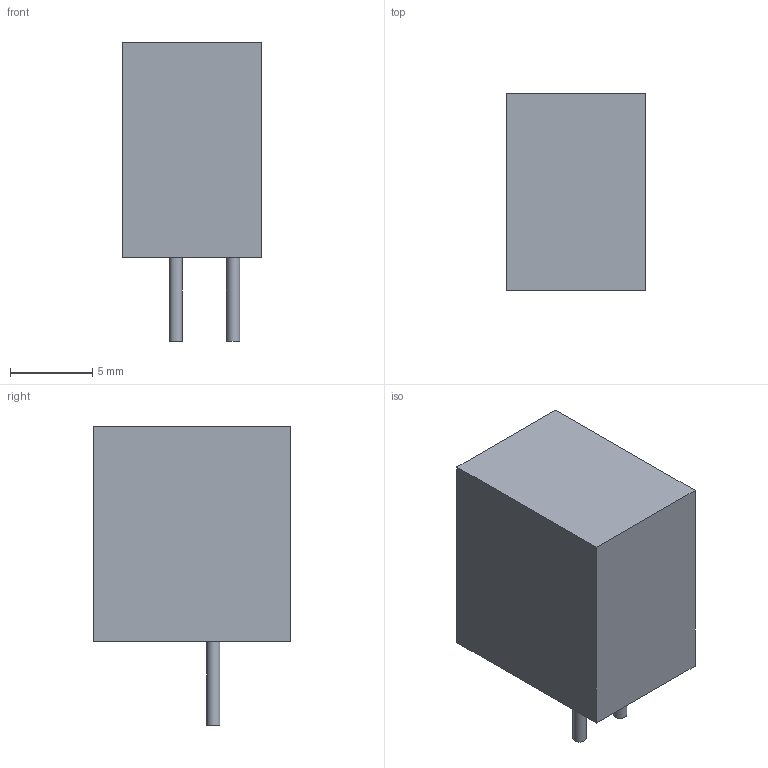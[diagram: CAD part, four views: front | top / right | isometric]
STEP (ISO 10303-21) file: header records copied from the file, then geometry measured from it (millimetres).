
FILE_DESCRIPTION(('FreeCAD Model'),'2;1');
FILE_NAME('/var/www/3D/0T/1037451.1.2.stp','2020-08-19T12:56:20',( 'Author'),(''),'Open CASCADE STEP processor 6.9','FreeCAD','Unknown' );
FILE_SCHEMA(('AUTOMOTIVE_DESIGN { 1 0 10303 214 1 1 1 1 }'));
Length unit declared in the file: millimetre
Products named in the file (3): ASSEMBLY; Body; Leads
Assembly tree (3 placements, depth 2):
  ASSEMBLY
    Body
    Leads  x2
Bounding box: 8.5 x 12 x 18.2 mm (x, y, z)
Volume: 1346.5 mm3; surface area: 796.4 mm2
Topology: 5 solids, 5 shells, 18 faces, 24 edges, 16 vertices
Faces by surface type: plane 14, cylinder 4
Full cylindrical faces by diameter (mm): 0.8 x4
Entity records: 581 total; most frequent: DIRECTION 90, CARTESIAN_POINT 82, LINE 46, VECTOR 46, ORIENTED_EDGE 36, PCURVE 36, DEFINITIONAL_REPRESENTATION 36, AXIS2_PLACEMENT_3D 20
